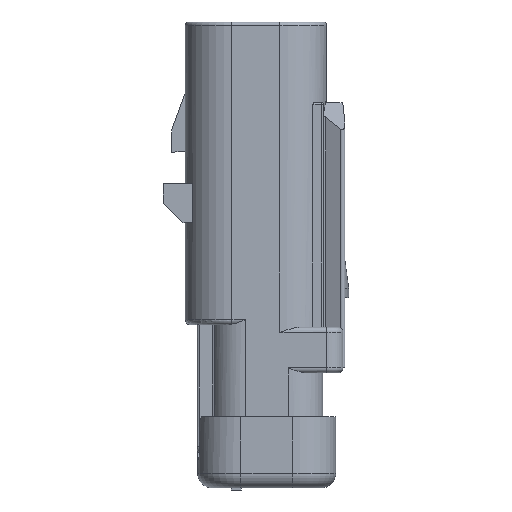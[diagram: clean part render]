
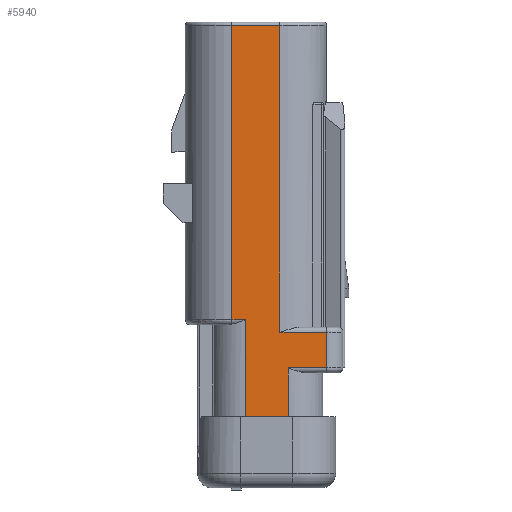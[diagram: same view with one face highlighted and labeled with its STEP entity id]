
A CAD part, left-side view. The second image highlights one B-rep face of the part: STEP entity #5940.
In plain terms, the highlighted planar face has unit normal (-1, 0, 0).
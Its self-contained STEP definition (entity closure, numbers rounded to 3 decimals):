
#299=DIRECTION('',(0.,0.,1.));
#300=VECTOR('',#299,31.285);
#301=CARTESIAN_POINT('',(-8.45,-2.45,-31.65));
#302=LINE('',#301,#300);
#562=DIRECTION('',(0.,-1.,0.));
#563=VECTOR('',#562,4.9);
#564=CARTESIAN_POINT('',(-8.45,2.45,
-0.365));
#565=LINE('',#564,#563);
#575=DIRECTION('',(0.,-1.,0.));
#576=VECTOR('',#575,4.4);
#577=CARTESIAN_POINT('',(-8.45,1.1,-40.3));
#578=LINE('',#577,#576);
#579=DIRECTION('',(0.,0.,1.));
#580=VECTOR('',#579,9.9);
#581=CARTESIAN_POINT('',(-8.45,1.1,-40.3));
#582=LINE('',#581,#580);
#583=DIRECTION('',(0.,1.,0.));
#584=VECTOR('',#583,1.35);
#585=CARTESIAN_POINT('',(-8.45,1.1,-30.4));
#586=LINE('',#585,#584);
#587=DIRECTION('',(0.,0.,1.));
#588=VECTOR('',#587,30.035);
#589=CARTESIAN_POINT('',(-8.45,2.45,-30.4));
#590=LINE('',#589,#588);
#1173=DIRECTION('',(0.,0.,1.));
#1174=VECTOR('',#1173,5.);
#1175=CARTESIAN_POINT('',(-8.45,-3.3,-40.3));
#1176=LINE('',#1175,#1174);
#1177=DIRECTION('',(0.,-1.,0.));
#1178=VECTOR('',#1177,3.88);
#1179=CARTESIAN_POINT('',(-8.45,-3.3,-35.3));
#1180=LINE('',#1179,#1178);
#1209=DIRECTION('',(0.,0.,-1.));
#1210=VECTOR('',#1209,3.65);
#1211=CARTESIAN_POINT('',(-8.45,-7.18,-31.65));
#1212=LINE('',#1211,#1210);
#1760=DIRECTION('',(0.,-1.,0.));
#1761=VECTOR('',#1760,4.73);
#1762=CARTESIAN_POINT('',(-8.45,-2.45,-31.65));
#1763=LINE('',#1762,#1761);
#4199=CARTESIAN_POINT('',(-8.45,1.1,-40.3));
#4200=CARTESIAN_POINT('',(-8.45,-3.3,-40.3));
#4201=VERTEX_POINT('',#4199);
#4202=VERTEX_POINT('',#4200);
#4380=CARTESIAN_POINT('',(-8.45,-7.18,-31.65));
#4382=VERTEX_POINT('',#4380);
#4386=CARTESIAN_POINT('',(-8.45,-2.45,-31.65));
#4387=VERTEX_POINT('',#4386);
#4414=CARTESIAN_POINT('',(-8.45,-7.18,-35.3));
#4416=VERTEX_POINT('',#4414);
#4420=CARTESIAN_POINT('',(-8.45,-3.3,-35.3));
#4421=VERTEX_POINT('',#4420);
#4710=CARTESIAN_POINT('',(-8.45,-2.45,
-0.365));
#4711=VERTEX_POINT('',#4710);
#4953=CARTESIAN_POINT('',(-8.45,2.45,-0.365));
#4955=VERTEX_POINT('',#4953);
#5223=CARTESIAN_POINT('',(-8.45,2.45,-30.4));
#5224=VERTEX_POINT('',#5223);
#5225=CARTESIAN_POINT('',(-8.45,1.1,-30.4));
#5226=VERTEX_POINT('',#5225);
#5915=CARTESIAN_POINT('',(-8.45,2.45,0.));
#5916=DIRECTION('',(-1.,0.,0.));
#5917=DIRECTION('',(0.,-1.,0.));
#5918=AXIS2_PLACEMENT_3D('',#5915,#5916,#5917);
#5919=PLANE('',#5918);
#5921=ORIENTED_EDGE('',*,*,#5920,.F.);
#5923=ORIENTED_EDGE('',*,*,#5922,.T.);
#5925=ORIENTED_EDGE('',*,*,#5924,.T.);
#5927=ORIENTED_EDGE('',*,*,#5926,.T.);
#5928=ORIENTED_EDGE('',*,*,#5905,.T.);
#5929=ORIENTED_EDGE('',*,*,#5498,.F.);
#5931=ORIENTED_EDGE('',*,*,#5930,.T.);
#5933=ORIENTED_EDGE('',*,*,#5932,.T.);
#5935=ORIENTED_EDGE('',*,*,#5934,.F.);
#5937=ORIENTED_EDGE('',*,*,#5936,.F.);
#5938=EDGE_LOOP('',(#5921,#5923,#5925,#5927,#5928,#5929,#5931,#5933,#5935,
#5937));
#5939=FACE_OUTER_BOUND('',#5938,.F.);
#5498=EDGE_CURVE('',#4387,#4711,#302,.T.);
#5905=EDGE_CURVE('',#4955,#4711,#565,.T.);
#5920=EDGE_CURVE('',#4201,#4202,#578,.T.);
#5922=EDGE_CURVE('',#4201,#5226,#582,.T.);
#5924=EDGE_CURVE('',#5226,#5224,#586,.T.);
#5926=EDGE_CURVE('',#5224,#4955,#590,.T.);
#5930=EDGE_CURVE('',#4387,#4382,#1763,.T.);
#5932=EDGE_CURVE('',#4382,#4416,#1212,.T.);
#5934=EDGE_CURVE('',#4421,#4416,#1180,.T.);
#5936=EDGE_CURVE('',#4202,#4421,#1176,.T.);
#5940=ADVANCED_FACE('',(#5939),#5919,.T.);
